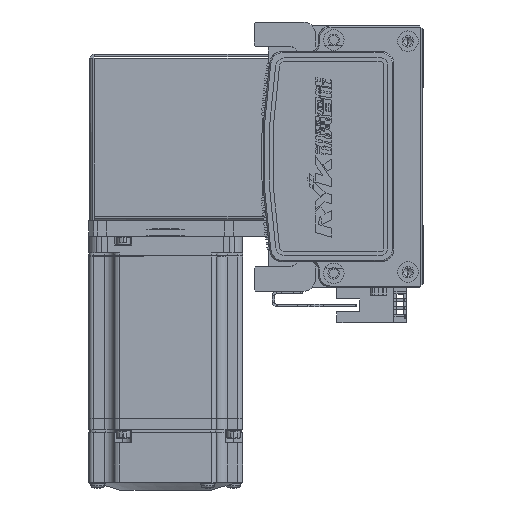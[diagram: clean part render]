
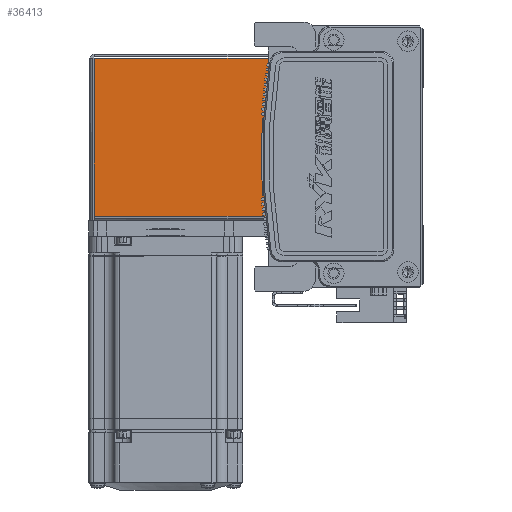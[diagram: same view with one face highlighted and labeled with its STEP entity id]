
A CAD part, left-side view. The second image highlights one B-rep face of the part: STEP entity #36413.
In plain terms, the highlighted planar face has unit normal (-1, 0, 0) as drawn and (0, 0, 1) by its records, which use the part's own axes.
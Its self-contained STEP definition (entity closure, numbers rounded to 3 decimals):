
#738 = EDGE_CURVE ( 'NONE', #50125, #31170, #61332, .T. ) ;
#1197 = CARTESIAN_POINT ( 'NONE',  ( 0., 68.5, 35. ) ) ;
#2215 = LINE ( 'NONE', #7510, #28009 ) ;
#3790 = DIRECTION ( 'NONE',  ( -1., 0., 0. ) ) ;
#3941 = CARTESIAN_POINT ( 'NONE',  ( 30.763, 0.737, 35. ) ) ;
#4869 = LINE ( 'NONE', #1197, #16856 ) ;
#7510 = CARTESIAN_POINT ( 'NONE',  ( -32.5, 0.737, 35. ) ) ;
#9076 = EDGE_CURVE ( 'NONE', #45056, #55687, #27652, .T. ) ;
#9813 = VECTOR ( 'NONE', #24649, 1000. ) ;
#10834 = EDGE_LOOP ( 'NONE', ( #59055, #62558, #36775, #68285 ) ) ;
#16856 = VECTOR ( 'NONE', #55491, 1000. ) ;
#17719 = DIRECTION ( 'NONE',  ( 0., 1., 0. ) ) ;
#24649 = DIRECTION ( 'NONE',  ( 0., 1., 0. ) ) ;
#24650 = EDGE_CURVE ( 'NONE', #55687, #31170, #4869, .T. ) ;
#27652 = LINE ( 'NONE', #29215, #41363 ) ;
#28009 = VECTOR ( 'NONE', #45862, 1000. ) ;
#29215 = CARTESIAN_POINT ( 'NONE',  ( 30.763, 0.737, 35. ) ) ;
#30915 = CARTESIAN_POINT ( 'NONE',  ( -30.793, 68.5, 35. ) ) ;
#31170 = VERTEX_POINT ( 'NONE', #30915 ) ;
#31395 = PLANE ( 'NONE',  #70183 ) ;
#35432 = CARTESIAN_POINT ( 'NONE',  ( -30.793, 0., 35. ) ) ;
#36413 = ADVANCED_FACE ( 'NONE', ( #53314 ), #31395, .F. ) ;
#36775 = ORIENTED_EDGE ( 'NONE', *, *, #738, .F. ) ;
#41363 = VECTOR ( 'NONE', #17719, 1000. ) ;
#41975 = DIRECTION ( 'NONE',  ( 0., 0., -1. ) ) ;
#45056 = VERTEX_POINT ( 'NONE', #3941 ) ;
#45862 = DIRECTION ( 'NONE',  ( -1., 0., 0. ) ) ;
#48170 = CARTESIAN_POINT ( 'NONE',  ( 0., 0., 35. ) ) ;
#50125 = VERTEX_POINT ( 'NONE', #68756 ) ;
#53314 = FACE_OUTER_BOUND ( 'NONE', #10834, .T. ) ;
#54153 = EDGE_CURVE ( 'NONE', #45056, #50125, #2215, .T. ) ;
#55491 = DIRECTION ( 'NONE',  ( -1., 0., 0. ) ) ;
#55687 = VERTEX_POINT ( 'NONE', #66536 ) ;
#59055 = ORIENTED_EDGE ( 'NONE', *, *, #9076, .T. ) ;
#61332 = LINE ( 'NONE', #35432, #9813 ) ;
#62558 = ORIENTED_EDGE ( 'NONE', *, *, #24650, .T. ) ;
#66536 = CARTESIAN_POINT ( 'NONE',  ( 30.763, 68.5, 35. ) ) ;
#68285 = ORIENTED_EDGE ( 'NONE', *, *, #54153, .F. ) ;
#68756 = CARTESIAN_POINT ( 'NONE',  ( -30.793, 0.737, 35. ) ) ;
#70183 = AXIS2_PLACEMENT_3D ( 'NONE', #48170, #41975, #3790 ) ;
